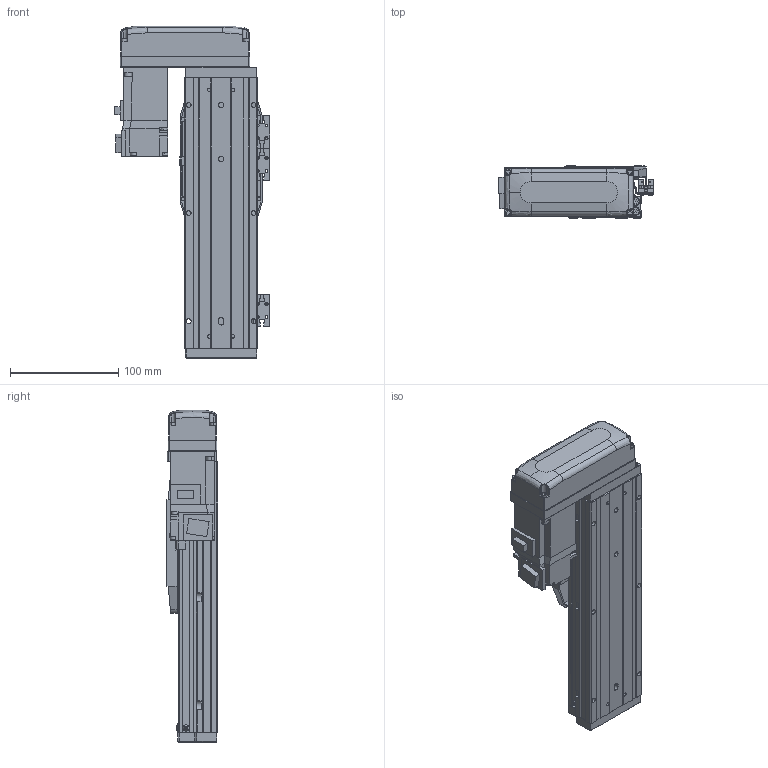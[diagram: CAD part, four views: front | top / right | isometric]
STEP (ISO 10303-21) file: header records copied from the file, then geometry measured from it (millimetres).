
FILE_DESCRIPTION (( 'STEP AP203' ), '1' );
FILE_NAME ('CTHA60-100-BR-M10-C4L.step', '2022-03-19T06:21:11', ( '微软用户' ), ( '微软中国' ), 'SwSTEP 2.0', 'SolidWorks 2020', '' );
FILE_SCHEMA (( 'CONFIG_CONTROL_DESIGN' ));
Length unit declared in the file: millimetre
Products named in the file (18): GBT 70.1-M3℅6; CTHA60-033; GB¨uT 70.2-M3¡Á6_M3¡Á6; GBT 70.3-M3℅6; CTHA60-100-BR-M10-C4L; EE_SX911P_R; CTHA60-016; CTHA60-017; HG-KR13（三菱）; CTHA60-021; CTHA60-002; CTHA60-001_250; GBT 70.1-M4×16; CTHA60-031; CTHA60-004; GBT77-2000 M3×3; CTHA60-006-1; CTHA60-005
Assembly tree (54 placements, depth 2):
  CTHA60-100-BR-M10-C4L
    CTHA60-001_250
    CTHA60-004
    CTHA60-005
    GB¨uT 70.2-M3¡Á6_M3¡Á6  x10
    EE_SX911P_R  x3
    CTHA60-017  x3
    CTHA60-021  x2
    GBT 70.1-M4×16  x10
    GBT77-2000 M3×3  x6
    GBT 70.1-M3℅6  x6
    GBT 70.3-M3℅6  x4
    CTHA60-016  x2
    HG-KR13（三菱）
    CTHA60-002
    CTHA60-031
    CTHA60-006-1
    CTHA60-033
Bounding box: 143.62 x 48 x 307 mm (x, y, z)
Volume: 695028.4 mm3; surface area: 230590.4 mm2
Topology: 56 solids, 56 shells, 2434 faces, 5813 edges, 3577 vertices
Faces by surface type: plane 1401, cylinder 553, cone 332, torus 92, bspline 32, sphere 24
Entity records: 42427 total; most frequent: CARTESIAN_POINT 8250, DIRECTION 6506, ORIENTED_EDGE 6434, EDGE_CURVE 3217, VECTOR 2274, LINE 2274, AXIS2_PLACEMENT_3D 2116, VERTEX_POINT 2036
